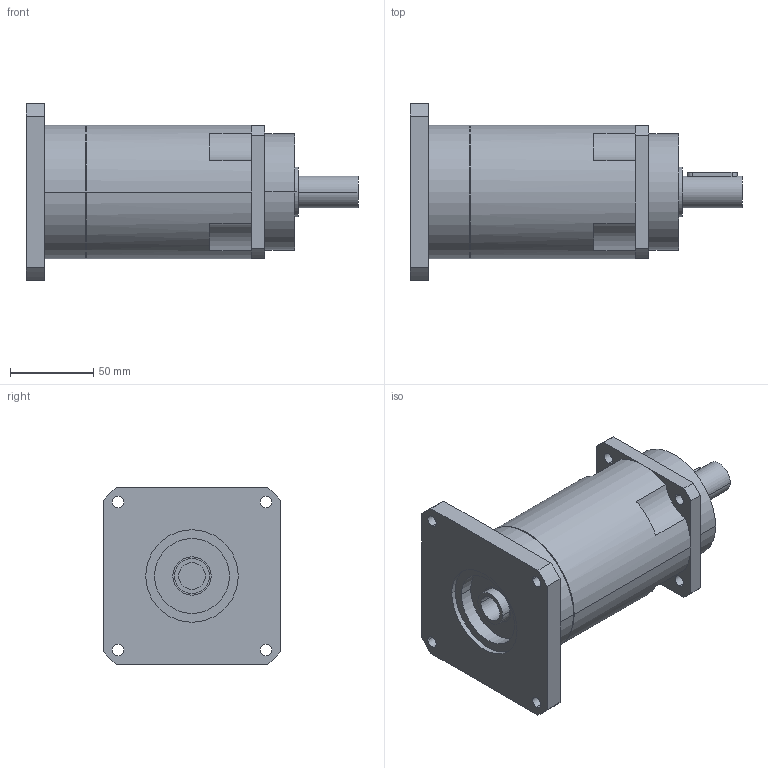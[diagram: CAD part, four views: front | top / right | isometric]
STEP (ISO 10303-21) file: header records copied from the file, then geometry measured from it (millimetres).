
FILE_DESCRIPTION(('CoCreate Modeling STEP Export'),'2;1');
FILE_NAME('GPR100_ig-48-64-80-100-120-144-180-216_19_B5_15.87_P02.stp','2014-08-26T11:55:30',(''),(''),'CoCreate Modeling STEP processor for AP214 (Solid Model)','CoCreate Modeling 16.00C 25-Feb-2009 (C) Parametric Technology GmbH','');
FILE_SCHEMA(('AUTOMOTIVE_DESIGN { 1 0 10303 214 1 1 1 1 }'));
Length unit declared in the file: millimetre
Products named in the file (2): GPR100_ig-48-64-80-100-120-144-180-216_19_B5_15.87_P02
Assembly tree (1 placements, depth 2):
  GPR100_ig-48-64-80-100-120-144-180-216_19_B5_15.87_P02
    GPR100_ig-48-64-80-100-120-144-180-216_19_B5_15.87_P02
Bounding box: 199.4 x 106.5 x 106.5 mm (x, y, z)
Volume: 844130.5 mm3; surface area: 75844.1 mm2
Topology: 1 solids, 1 shells, 89 faces, 245 edges, 167 vertices
Faces by surface type: cylinder 52, plane 31, cone 6
Entity records: 2602 total; most frequent: ORIENTED_EDGE 486, CARTESIAN_POINT 472, DIRECTION 386, EDGE_CURVE 243, VERTEX_POINT 167, AXIS2_PLACEMENT_3D 145, EDGE_LOOP 116, VECTOR 96
